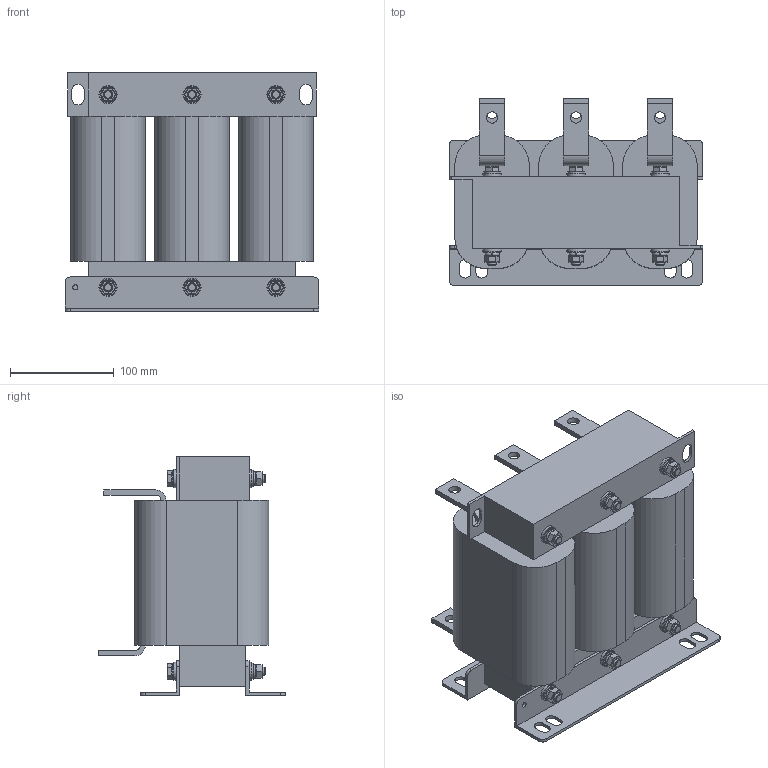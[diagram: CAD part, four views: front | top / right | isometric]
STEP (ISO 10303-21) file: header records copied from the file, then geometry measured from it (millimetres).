
FILE_DESCRIPTION(('STEP AP203'), '1');
FILE_NAME('栖闉罻 _ IMF-160_300-4', '', ('UNSPECIFIED'), ('UNSPECIFIED'), 'ASCON STEP Converter 1.6', 'ASCON Math Kernel', '');
FILE_SCHEMA(('CONFIG_CONTROL_DESIGN'));
Length unit declared in the file: millimetre
Products named in the file (12): IMF-160_300-4
Assembly tree (55 placements, depth 2):
  IMF-160_300-4
    IMF-160_300-4
    IMF-160_300-4  x2
    IMF-160_300-4  x3
    IMF-160_300-4  x3
    IMF-160_300-4  x3
    IMF-160_300-4
    IMF-160_300-4  x12
    IMF-160_300-4  x12
    IMF-160_300-4  x6
    IMF-160_300-4  x6
    IMF-160_300-4  x6
Bounding box: 245 x 180 x 230 mm (x, y, z)
Volume: 4837388.2 mm3; surface area: 431403.1 mm2
Topology: 55 solids, 55 shells, 586 faces, 1248 edges, 778 vertices
Faces by surface type: plane 424, cylinder 132, cone 18, torus 12
Full cylindrical faces by diameter (mm): 5 x2, 8 x48, 11 x6, 15.6 x12, 17.5 x12
Entity records: 6362 total; most frequent: CARTESIAN_POINT 1114, DIRECTION 832, ORIENTED_EDGE 666, EDGE_CURVE 333, AXIS2_PLACEMENT_3D 297, LINE 238, VECTOR 238, VERTEX_POINT 227
